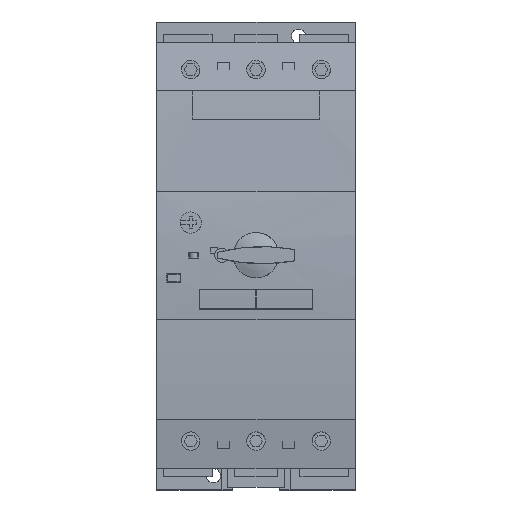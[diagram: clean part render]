
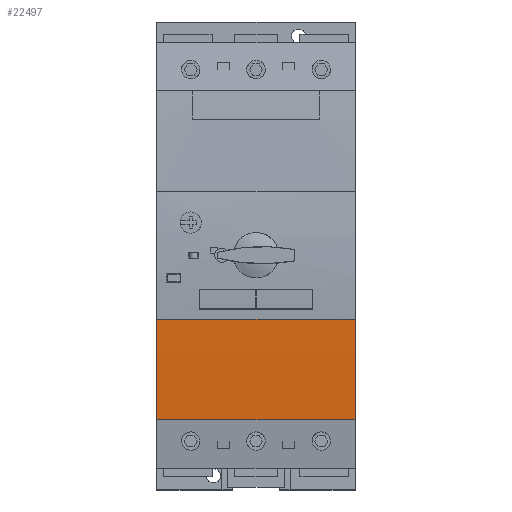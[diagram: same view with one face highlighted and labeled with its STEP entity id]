
A CAD part, top view. The second image highlights one B-rep face of the part: STEP entity #22497.
In plain terms, the highlighted cylindrical face has radius 715.791 mm (diameter 1431.58 mm), a partial arc.
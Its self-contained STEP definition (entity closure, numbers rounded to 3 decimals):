
#7506 = CARTESIAN_POINT ( 'NONE',  ( -35., -58., 151. ) ) ;
#7509 = CARTESIAN_POINT ( 'NONE',  ( -35., -58., 151. ) ) ;
#7542 = DIRECTION ( 'NONE',  ( 1., 0., 0. ) ) ;
#7543 = VECTOR ( 'NONE', #7542, 1000. ) ;
#7551 = LINE ( 'NONE', #7506, #7543 ) ;
#7581 = CARTESIAN_POINT ( 'NONE',  ( 35., -58., 151. ) ) ;
#7652 = CARTESIAN_POINT ( 'NONE',  ( -35., 0., -562.438 ) ) ;
#7696 = DIRECTION ( 'NONE',  ( 0., 0., -1. ) ) ;
#7697 = DIRECTION ( 'NONE',  ( -1., 0., 0. ) ) ;
#7702 = AXIS2_PLACEMENT_3D ( 'NONE', #7652, #7697, #7696 ) ;
#7704 = CARTESIAN_POINT ( 'NONE',  ( -35., -22.5, 153. ) ) ;
#7705 = CIRCLE ( 'NONE', #7702, 715.791 ) ;
#7818 = DIRECTION ( 'NONE',  ( 0., 0., -1. ) ) ;
#7819 = DIRECTION ( 'NONE',  ( -1., 0., 0. ) ) ;
#7820 = CARTESIAN_POINT ( 'NONE',  ( 35., 0., -562.438 ) ) ;
#7821 = AXIS2_PLACEMENT_3D ( 'NONE', #7820, #7819, #7818 ) ;
#7823 = CARTESIAN_POINT ( 'NONE',  ( 35., -22.5, 153. ) ) ;
#7828 = CIRCLE ( 'NONE', #7821, 715.791 ) ;
#9060 = DIRECTION ( 'NONE',  ( 1., 0., 0. ) ) ;
#9061 = VECTOR ( 'NONE', #9060, 1000. ) ;
#9062 = CARTESIAN_POINT ( 'NONE',  ( -35., -22.5, 153. ) ) ;
#9063 = LINE ( 'NONE', #9062, #9061 ) ;
#14631 = CARTESIAN_POINT ( 'NONE',  ( -35., 0., -562.438 ) ) ;
#14655 = CYLINDRICAL_SURFACE ( 'NONE', #14684, 715.791 ) ;
#14658 = DIRECTION ( 'NONE',  ( 1., 0., 0. ) ) ;
#14660 = DIRECTION ( 'NONE',  ( 0., 0., -1. ) ) ;
#14683 = FACE_OUTER_BOUND ( 'NONE', #22489, .T. ) ;
#14684 = AXIS2_PLACEMENT_3D ( 'NONE', #14631, #14658, #14660 ) ;
#18974 = VERTEX_POINT ( 'NONE', #7509 ) ;
#18979 = EDGE_CURVE ( 'NONE', #18974, #18994, #7551, .T. ) ;
#18994 = VERTEX_POINT ( 'NONE', #7581 ) ;
#19065 = EDGE_CURVE ( 'NONE', #18974, #19070, #7705, .T. ) ;
#19070 = VERTEX_POINT ( 'NONE', #7704 ) ;
#19118 = EDGE_CURVE ( 'NONE', #18994, #19129, #7828, .T. ) ;
#19129 = VERTEX_POINT ( 'NONE', #7823 ) ;
#19871 = EDGE_CURVE ( 'NONE', #19070, #19129, #9063, .T. ) ;
#22476 = ORIENTED_EDGE ( 'NONE', *, *, #19118, .T. ) ;
#22489 = EDGE_LOOP ( 'NONE', ( #22510, #22492, #22499, #22476 ) ) ;
#22492 = ORIENTED_EDGE ( 'NONE', *, *, #19065, .F. ) ;
#22497 = ADVANCED_FACE ( 'NONE', ( #14683 ), #14655, .T. ) ;
#22499 = ORIENTED_EDGE ( 'NONE', *, *, #18979, .T. ) ;
#22510 = ORIENTED_EDGE ( 'NONE', *, *, #19871, .F. ) ;
